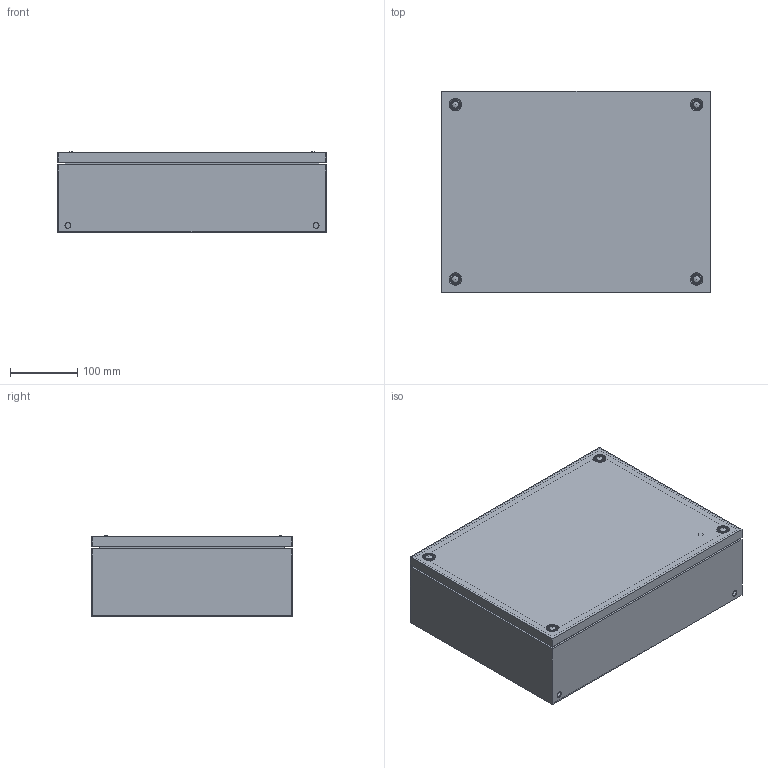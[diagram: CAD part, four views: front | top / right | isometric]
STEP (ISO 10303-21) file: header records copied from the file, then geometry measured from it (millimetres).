
FILE_DESCRIPTION( ( 'STEP AP214' ), '1' );
FILE_NAME( 'p:/temp/worker_211/temp/exporttempdir_3232_243_lLXPP/format_0/STB304012(0).stp', '2021-03-16T12:21:45', ( 'License CC BY-ND 4.0' ), ( 'CADENAS' ), ' ', 'PARTsolutions', ' ' );
FILE_SCHEMA( ( 'AUTOMOTIVE_DESIGN { 1 0 10303 214 1 1 1 1 }' ) );
Length unit declared in the file: millimetre
Products named in the file (4): STB304012(0); _STB304012(0)_01; _STB3040XX(0)_02; _STBXXXXXX(0)_03
Assembly tree (6 placements, depth 2):
  STB304012(0)
    _STB304012(0)_01
    _STB3040XX(0)_02
    _STBXXXXXX(0)_03  x4
Bounding box: 400 x 300 x 120.9 mm (x, y, z)
Volume: 576032.6 mm3; surface area: 888544.7 mm2
Topology: 6 solids, 6 shells, 251 faces, 569 edges, 369 vertices
Faces by surface type: plane 147, cylinder 62, cone 38, sphere 4
Full cylindrical faces by diameter (mm): 3.2 x4, 3.5 x4, 6 x4, 7 x4, 7.5 x4, 8 x2, 8.5 x4, 8.7 x6, 10 x4, 14 x2
Entity records: 7390 total; most frequent: DIRECTION 986, CARTESIAN_POINT 975, ORIENTED_EDGE 860, EDGE_CURVE 430, AXIS2_PLACEMENT_3D 351, EDGE_LOOP 310, VERTEX_POINT 308, LINE 284
